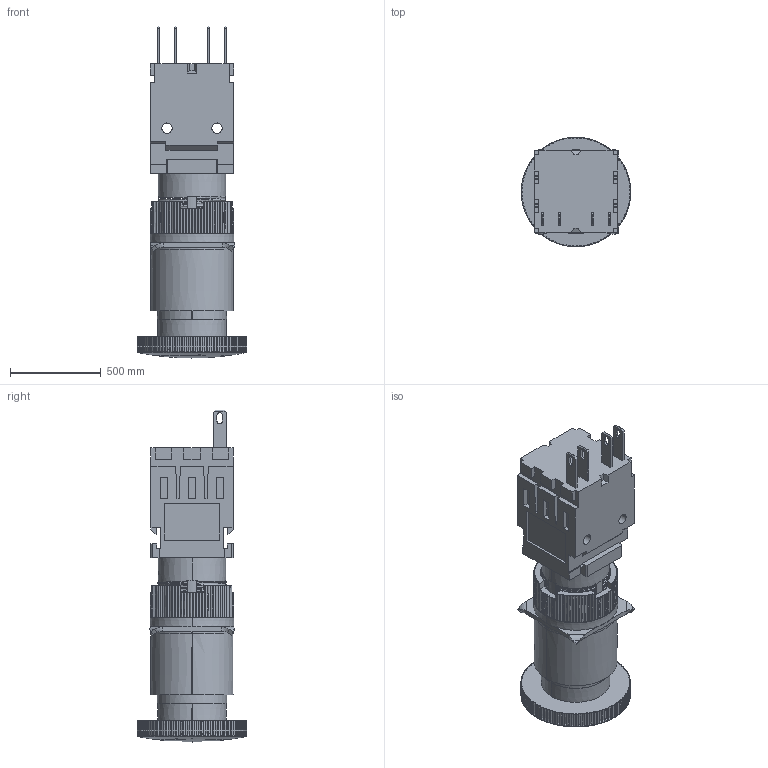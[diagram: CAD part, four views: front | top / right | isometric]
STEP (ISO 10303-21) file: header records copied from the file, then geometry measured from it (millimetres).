
FILE_DESCRIPTION((''),'2;1');
FILE_NAME('PRT0002','2016-06-12T',('Administrator'),(''),'PRO/ENGINEER BY PARAMETRIC TECHNOLOGY CORPORATION, 2012360','PRO/ENGINEER BY PARAMETRIC TECHNOLOGY CORPORATION, 2012360','');
FILE_SCHEMA(('CONFIG_CONTROL_DESIGN'));
Products named in the file (1): PRT0002
Bounding box: 603 x 603 x 1829.82 mm (x, y, z)
Surface area: 5559425.5 mm2 (no closed solid volume)
Topology: 0 solids, 0 shells, 1056 faces, 5835 edges, 5833 vertices
Faces by surface type: bspline 1052, torus 2, sphere 2
Entity records: 113193 total; most frequent: CARTESIAN_POINT 63354, DIRECTION 7388, TRIMMED_CURVE 6448, DEFINITIONAL_REPRESENTATION 5829, PCURVE 5829, COMPOSITE_CURVE_SEGMENT 5829, VECTOR 5516, LINE 5516
